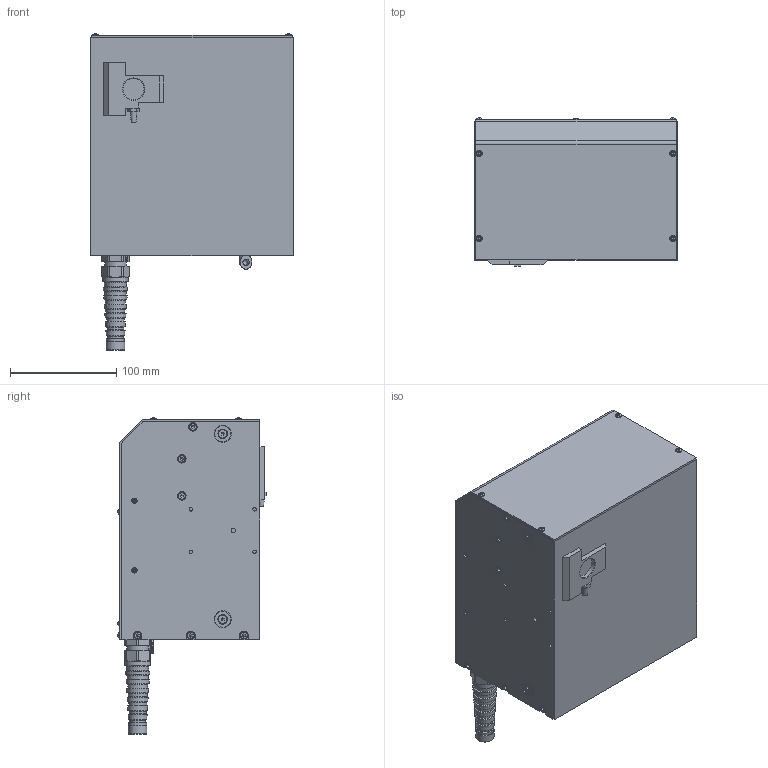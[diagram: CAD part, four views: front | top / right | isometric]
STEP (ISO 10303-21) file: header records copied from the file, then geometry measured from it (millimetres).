
FILE_DESCRIPTION((''),'2;1');
FILE_NAME('K:\ARTIKEL-3D\40.11._ _ _ _\40.11.1000.stp','2015-03-05T12:38:57',('stuhrmann'),(''),'Autodesk Inventor 2013','Autodesk Inventor 2013','');
FILE_SCHEMA(('AUTOMOTIVE_DESIGN { 1 0 10303 214 1 1 1 1 }'));
Length unit declared in the file: millimetre
Products named in the file (1): Bauteil8
Bounding box: 190 x 139.27 x 297.5 mm (x, y, z)
Volume: 5176862.7 mm3; surface area: 200616.4 mm2
Topology: 1 solids, 26 shells, 709 faces, 1631 edges, 1059 vertices
Faces by surface type: plane 400, cylinder 178, cone 82, torus 38, sphere 11
Full cylindrical faces by diameter (mm): 2.5 x2, 2.7 x2, 3 x10, 3.2 x1, 3.3 x8, 3.4 x4, 4 x27, 4.134 x2, 4.5 x20, 5 x2, 5.7 x9, 6 x2, 7 x16, 8 x12, 9 x4, 10.5 x2, 13 x1, 15 x8, 16 x4, 17.5 x1, 20 x1, 20.4 x1, 24 x1
Entity records: 18529 total; most frequent: CARTESIAN_POINT 3337, DIRECTION 3054, ORIENTED_EDGE 2580, EDGE_CURVE 1290, AXIS2_PLACEMENT_3D 1214, EDGE_LOOP 1101, VERTEX_POINT 973, FACE_OUTER_BOUND 709
